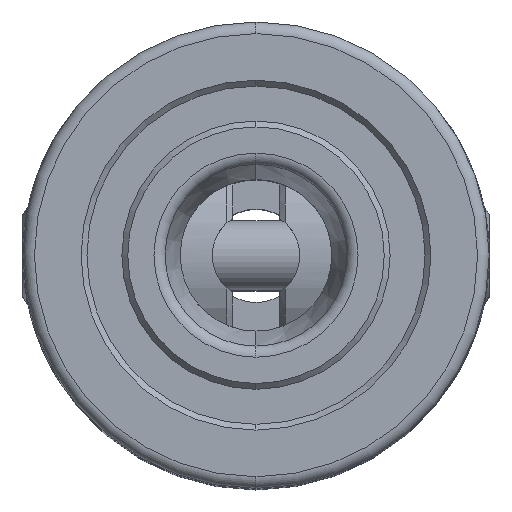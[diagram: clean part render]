
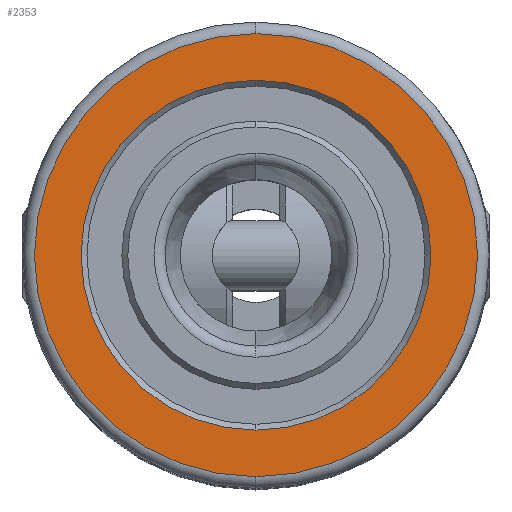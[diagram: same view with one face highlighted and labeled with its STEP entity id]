
A CAD part, top view. The second image highlights one B-rep face of the part: STEP entity #2353.
In plain terms, the highlighted planar face has unit normal (0, 0, 1).
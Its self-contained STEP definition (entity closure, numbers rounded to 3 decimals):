
#481 = CIRCLE ( 'NONE', #4478, 19. ) ;
#702 = ORIENTED_EDGE ( 'NONE', *, *, #4889, .T. ) ;
#974 = DIRECTION ( 'NONE',  ( 0., 0., 1. ) ) ;
#1074 = CARTESIAN_POINT ( 'NONE',  ( 0., 0., 80. ) ) ;
#1136 = DIRECTION ( 'NONE',  ( 0., -1., 0. ) ) ;
#1192 = CARTESIAN_POINT ( 'NONE',  ( 0., -19., 80. ) ) ;
#1309 = DIRECTION ( 'NONE',  ( 0., -1., 0. ) ) ;
#1364 = PLANE ( 'NONE',  #3947 ) ;
#1513 = FACE_OUTER_BOUND ( 'NONE', #9873, .T. ) ;
#1544 = ORIENTED_EDGE ( 'NONE', *, *, #15215, .T. ) ;
#1795 = CIRCLE ( 'NONE', #10521, 19. ) ;
#2353 = ADVANCED_FACE ( 'NONE', ( #1513, #6275 ), #1364, .T. ) ;
#3137 = VERTEX_POINT ( 'NONE', #10827 ) ;
#3565 = DIRECTION ( 'NONE',  ( 0., 0., 1. ) ) ;
#3947 = AXIS2_PLACEMENT_3D ( 'NONE', #13380, #6356, #6127 ) ;
#4306 = ORIENTED_EDGE ( 'NONE', *, *, #10252, .T. ) ;
#4478 = AXIS2_PLACEMENT_3D ( 'NONE', #10815, #974, #1136 ) ;
#4754 = DIRECTION ( 'NONE',  ( 0., 1., 0. ) ) ;
#4889 = EDGE_CURVE ( 'NONE', #3137, #14741, #481, .T. ) ;
#5928 = DIRECTION ( 'NONE',  ( 0., 0., -1. ) ) ;
#6090 = CARTESIAN_POINT ( 'NONE',  ( 0., 0., 80. ) ) ;
#6127 = DIRECTION ( 'NONE',  ( 0., -1., 0. ) ) ;
#6259 = EDGE_LOOP ( 'NONE', ( #4306, #6512 ) ) ;
#6275 = FACE_BOUND ( 'NONE', #6259, .T. ) ;
#6356 = DIRECTION ( 'NONE',  ( 0., 0., 1. ) ) ;
#6512 = ORIENTED_EDGE ( 'NONE', *, *, #7169, .T. ) ;
#6954 = CARTESIAN_POINT ( 'NONE',  ( 0., 0., 80. ) ) ;
#7169 = EDGE_CURVE ( 'NONE', #13493, #8806, #9771, .T. ) ;
#8806 = VERTEX_POINT ( 'NONE', #8889 ) ;
#8889 = CARTESIAN_POINT ( 'NONE',  ( 0., -15., 80. ) ) ;
#9538 = AXIS2_PLACEMENT_3D ( 'NONE', #6954, #11722, #13986 ) ;
#9771 = CIRCLE ( 'NONE', #9538, 15. ) ;
#9873 = EDGE_LOOP ( 'NONE', ( #1544, #702 ) ) ;
#10252 = EDGE_CURVE ( 'NONE', #8806, #13493, #12945, .T. ) ;
#10521 = AXIS2_PLACEMENT_3D ( 'NONE', #1074, #3565, #1309 ) ;
#10815 = CARTESIAN_POINT ( 'NONE',  ( 0., 0., 80. ) ) ;
#10827 = CARTESIAN_POINT ( 'NONE',  ( 0., 19., 80. ) ) ;
#11722 = DIRECTION ( 'NONE',  ( 0., 0., -1. ) ) ;
#12945 = CIRCLE ( 'NONE', #14447, 15. ) ;
#13380 = CARTESIAN_POINT ( 'NONE',  ( 6.5, 0., 80. ) ) ;
#13493 = VERTEX_POINT ( 'NONE', #13923 ) ;
#13923 = CARTESIAN_POINT ( 'NONE',  ( 0., 15., 80. ) ) ;
#13986 = DIRECTION ( 'NONE',  ( 0., 1., 0. ) ) ;
#14447 = AXIS2_PLACEMENT_3D ( 'NONE', #6090, #5928, #4754 ) ;
#14741 = VERTEX_POINT ( 'NONE', #1192 ) ;
#15215 = EDGE_CURVE ( 'NONE', #14741, #3137, #1795, .T. ) ;
